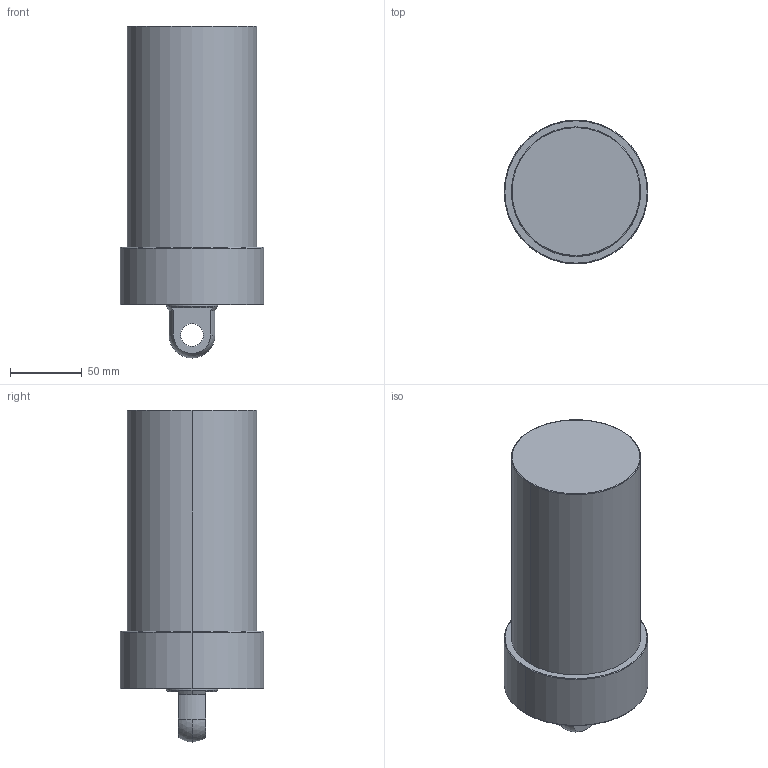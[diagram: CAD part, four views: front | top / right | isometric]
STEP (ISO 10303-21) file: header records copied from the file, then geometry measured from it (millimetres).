
FILE_DESCRIPTION (( 'STEP AP203' ), '1' );
FILE_NAME ('CLLU-090GP-110.STEP', '2020-01-15T01:47:28', ( '' ), ( '' ), 'SwSTEP 2.0', 'SolidWorks 2015', '' );
FILE_SCHEMA (( 'CONFIG_CONTROL_DESIGN' ));
Length unit declared in the file: millimetre
Products named in the file (1): CLLU-090GP-110
Bounding box: 100 x 100 x 231 mm (x, y, z)
Volume: 1302867.8 mm3; surface area: 77997.8 mm2
Topology: 1 solids, 1 shells, 58 faces, 131 edges, 75 vertices
Faces by surface type: cylinder 23, cone 18, plane 9, torus 6, sphere 2
Entity records: 1658 total; most frequent: DIRECTION 311, CARTESIAN_POINT 269, ORIENTED_EDGE 246, AXIS2_PLACEMENT_3D 133, EDGE_CURVE 123, VERTEX_POINT 75, CIRCLE 74, EDGE_LOOP 68
